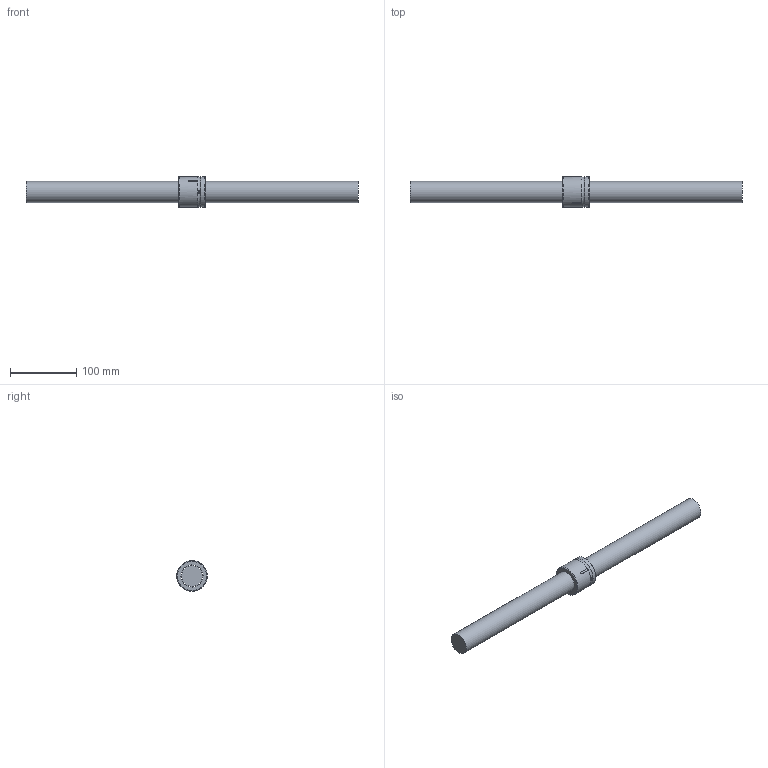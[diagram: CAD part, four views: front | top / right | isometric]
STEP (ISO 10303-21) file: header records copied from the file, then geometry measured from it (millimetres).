
FILE_DESCRIPTION (( 'STEP AP203' ), '1' );
FILE_NAME ('SCI03204-4.step', '2024-05-23T08:29:36', ( '' ), ( '' ), 'SwSTEP 2.0', 'SolidWorks 2022', '' );
FILE_SCHEMA (( 'CONFIG_CONTROL_DESIGN' ));
Length unit declared in the file: millimetre
Products named in the file (1): SCI03204-4
Bounding box: 500 x 46 x 46 mm (x, y, z)
Volume: 433171.4 mm3; surface area: 63432.6 mm2
Topology: 2 solids, 2 shells, 17 faces, 38 edges, 25 vertices
Faces by surface type: cylinder 7, plane 7, torus 3
Full cylindrical faces by diameter (mm): 3.5 x1, 32 x1, 33.3 x1, 46 x2
Entity records: 629 total; most frequent: CARTESIAN_POINT 223, DIRECTION 68, ORIENTED_EDGE 52, AXIS2_PLACEMENT_3D 30, EDGE_LOOP 29, EDGE_CURVE 26, FACE_OUTER_BOUND 25, VERTEX_POINT 21
